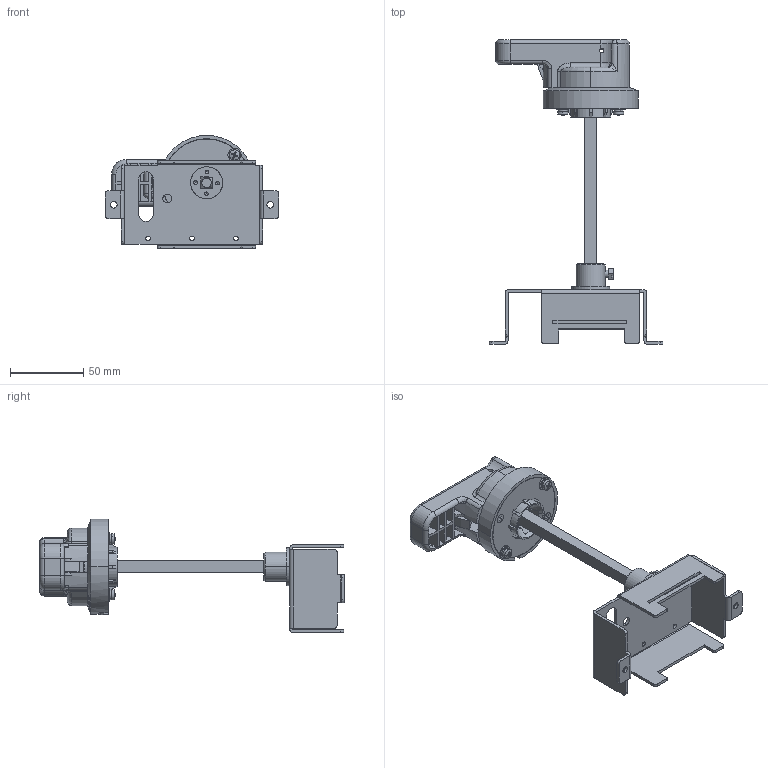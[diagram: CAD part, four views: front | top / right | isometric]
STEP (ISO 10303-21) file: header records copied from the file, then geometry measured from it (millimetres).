
FILE_DESCRIPTION (( 'STEP AP203' ), '1' );
FILE_NAME ('M5-160-Z1A.STEP', '2024-10-21T07:04:19', ( 'A' ), ( '' ), 'SwSTEP 2.0', 'SolidWorks 2018', '' );
FILE_SCHEMA (( 'CONFIG_CONTROL_DESIGN' ));
Products named in the file (1): M5-160-Z1A
Bounding box: 119 x 208.5 x 77.5 mm (x, y, z)
Surface area: 95984.3 mm2 (no closed solid volume)
Topology: 0 solids, 18 shells, 1257 faces, 3407 edges, 2191 vertices
Faces by surface type: plane 573, cylinder 393, bspline 168, cone 70, sphere 29, torus 24
Entity records: 50234 total; most frequent: CARTESIAN_POINT 19705, ORIENTED_EDGE 6672, DIRECTION 5829, EDGE_CURVE 3368, VERTEX_POINT 2181, AXIS2_PLACEMENT_3D 1993, LINE 1843, VECTOR 1843
